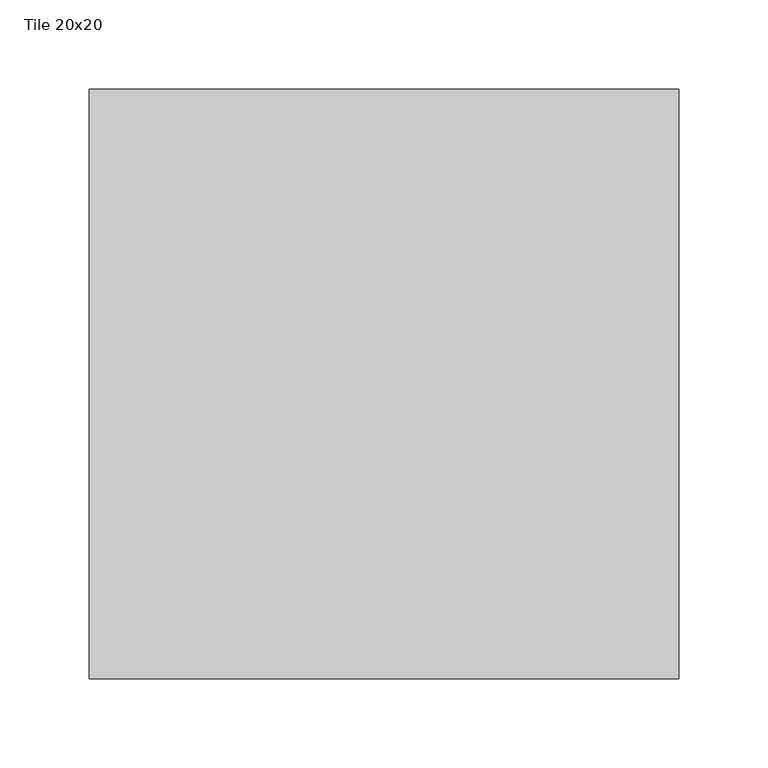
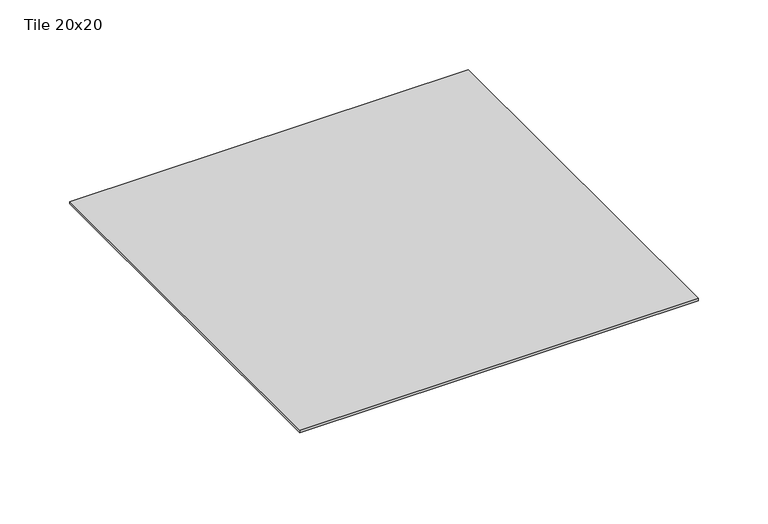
"""IFC4 building model written with IfcOpenShell, lengths in millimetres: sanitary terminal geometry, Z_DO_NOT_USE_NLRS_PF_52_UN_Aqua Jewels Quattro Complete_Easydrain : Tile 20x20."""

from ifc_helpers import new_model, si_unit, frame, origin, place, context, project, spatial, polyline, outline, extrude, source, transform, mapped, element, save


def tile_20x20_1db265bf(model_context):
    return source(origin(), model_context, "Body", "SweptSolid", [
        extrude(outline(polyline([(170.0, 155.0), (170.0, -175.0), (-160.0, -175.0), (-160.0, 155.0), (170.0, 155.0)])), frame((0.0, 0.0, -6.0), z_axis=(0.0, 0.0, 1.0), x_axis=(1.0, 0.0, 0.0)), (0.0, 0.0, 1.0), 2.0),
        extrude(outline(polyline([(105.0, 90.0), (105.0, -110.0), (-95.0, -110.0), (-95.0, 90.0), (105.0, 90.0)])), frame((0.0, 0.0, -25.0), z_axis=(0.0, 0.0, 1.0), x_axis=(1.0, 0.0, 0.0)), (0.0, 0.0, 1.0), 20.0),
        extrude(outline(polyline([(135.0, 120.0), (135.0, -140.0), (-125.0, -140.0), (-125.0, 120.0), (135.0, 120.0)])), frame((0.0, 0.0, -7.0), z_axis=(0.0, 0.0, 1.0), x_axis=(1.0, 0.0, 0.0)), (0.0, 0.0, 1.0), 2.0),
    ])


if __name__ == "__main__":
    model = new_model("IFC4")
    model_context = context("Model", 3, world=origin())
    ifc_project = project(units=[si_unit("LENGTHUNIT", "METRE", prefix="MILLI")], contexts=[model_context])
    site = spatial("IfcSite", under=ifc_project)
    building = spatial("IfcBuilding", under=site)
    placement = place(None, origin())
    tile_20x20_shape = tile_20x20_1db265bf(model_context)
    element("IfcSanitaryTerminal", 1, ObjectType="Z_DO_NOT_USE_NLRS_PF_52_UN_Aqua Jewels Quattro Complete_Easydrain : Tile 20x20", at=placement, inside=building, context=model_context, shape_type="MappedRepresentation", body=[
        mapped(tile_20x20_shape, transform((0.0, 0.0, 0.0), x_axis=(1.0, 0.0, 0.0), y_axis=(0.0, 1.0, 0.0), z_axis=(0.0, 0.0, 1.0))),
    ])
    save(model, "model.ifc")
